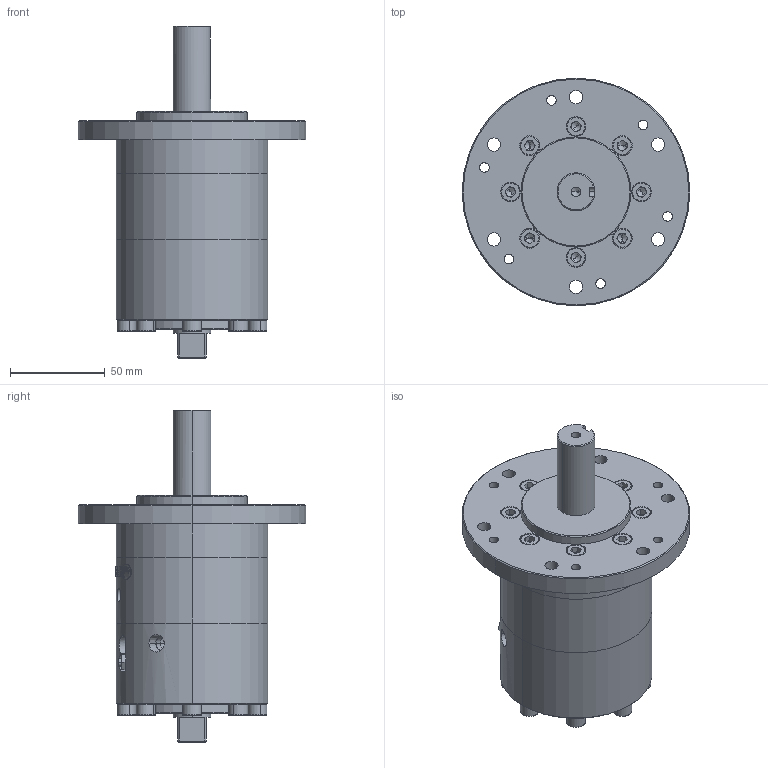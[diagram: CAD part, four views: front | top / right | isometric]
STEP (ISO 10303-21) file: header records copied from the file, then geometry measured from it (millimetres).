
FILE_DESCRIPTION (( 'STEP AP203' ), '1' );
FILE_NAME ('HRN30S-C.STEP', '2016-01-14T17:00:10', ( '' ), ( '' ), 'SwSTEP 2.0', 'SolidWorks 2014', '' );
FILE_SCHEMA (( 'CONFIG_CONTROL_DESIGN' ));
Length unit declared in the file: millimetre
Products named in the file (9): 5; 3; 1; mark-30C; ISO 4762 M6 x 20; 2; 6; HRN30S-C; 4
Assembly tree (24 placements, depth 2):
  HRN30S-C
    1
    2
    4  x2
    3
    5
    6
    ISO 4762 M6 x 20  x16
    mark-30C
Bounding box: 120 x 120 x 175 mm (x, y, z)
Volume: 633907.1 mm3; surface area: 119274.3 mm2
Topology: 30 solids, 30 shells, 819 faces, 1879 edges, 1120 vertices
Faces by surface type: plane 346, cylinder 220, cone 154, torus 64, bspline 35
Entity records: 15925 total; most frequent: CARTESIAN_POINT 5698, DIRECTION 1858, ORIENTED_EDGE 1786, EDGE_CURVE 893, AXIS2_PLACEMENT_3D 752, VERTEX_POINT 577, EDGE_LOOP 480, ADVANCED_FACE 384
